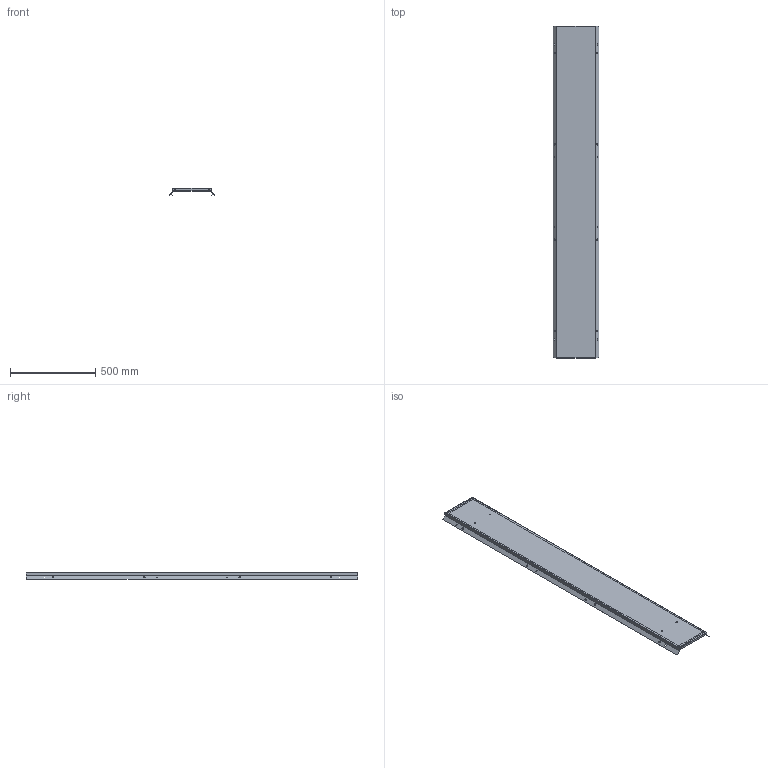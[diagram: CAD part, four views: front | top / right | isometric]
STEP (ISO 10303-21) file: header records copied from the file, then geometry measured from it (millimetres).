
FILE_DESCRIPTION (( 'STEP AP203' ), '1' );
FILE_NAME ('MA1.200.030620.10.00 AleSta-PR203 Ïàíåëü çàäíÿÿ, äëÿ øêàôîâ ALESTA, 2000 x 300.STEP', '2025-02-19T15:06:36', ( '' ), ( '' ), 'SwSTEP 2.0', 'SolidWorks 2021', '' );
FILE_SCHEMA (( 'CONFIG_CONTROL_DESIGN' ));
Length unit declared in the file: millimetre
Products named in the file (6): Âèíò ñàìîíàðåçàþùèé ñ ïîòàéíîé ãîëîâêîé Ì5x16 DIN 7500 M TORX, êëàññ ïðî÷íîñòè 8.8, îöèíêîâàííàÿ ñòàëü_Œ5å16; Øïèëüêà Ì6õ12_˜¯¨«ìª  Œ6å12; MA1.200.030620.10.00 AleSta-PR203  Ïàíåëü çàäíÿÿ, äëÿ øêàôîâ ALESTA, 2000 x 300; MA1.200.060620.11.01 Ïîëîòíî çàäíåé ïàíåëè 2000õ600_2000å300; MA1.200.060620.11.00 Ïàíåëü çàäíÿÿ, äëÿ øêàôîâ AleSta, 2000x600_2000å300; Óïëîòíèòåëü ïàíåëè íèæíåé_   ‚=2000
Assembly tree (15 placements, depth 3):
  MA1.200.030620.10.00 AleSta-PR203  Ïàíåëü çàäíÿÿ, äëÿ øêàôîâ ALESTA, 2000 x 300
    MA1.200.060620.11.00 Ïàíåëü çàäíÿÿ, äëÿ øêàôîâ AleSta, 2000x600_2000å300
      MA1.200.060620.11.01 Ïîëîòíî çàäíåé ïàíåëè 2000õ600_2000å300
      Óïëîòíèòåëü ïàíåëè íèæíåé_   ‚=2000
      Øïèëüêà Ì6õ12_˜¯¨«ìª  Œ6å12  x4
    Âèíò ñàìîíàðåçàþùèé ñ ïîòàéíîé ãîëîâêîé Ì5x16 DIN 7500 M TORX, êëàññ ïðî÷íîñòè 8.8, îöèíêîâàííàÿ ñòàëü_Œ5å16  x8
Bounding box: 265.31 x 1945 x 41.7 mm (x, y, z)
Volume: 898046.8 mm3; surface area: 1393357 mm2
Topology: 14 solids, 14 shells, 544 faces, 1352 edges, 864 vertices
Faces by surface type: cylinder 304, plane 184, cone 40, bspline 8, torus 8
Entity records: 7885 total; most frequent: CARTESIAN_POINT 1623, DIRECTION 1165, ORIENTED_EDGE 1074, EDGE_CURVE 537, AXIS2_PLACEMENT_3D 424, VERTEX_POINT 332, LINE 317, VECTOR 317
